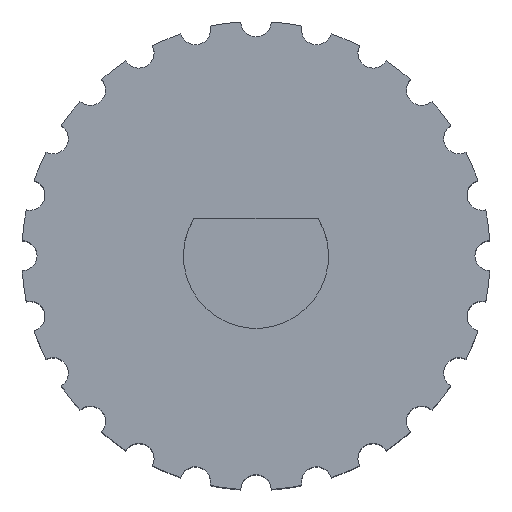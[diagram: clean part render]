
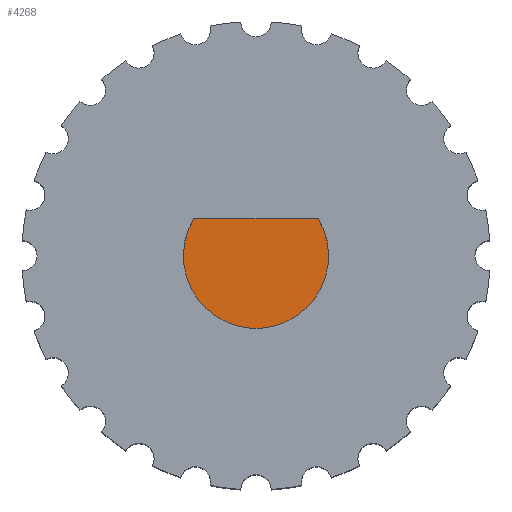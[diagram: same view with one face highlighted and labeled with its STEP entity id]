
A CAD part, top view. The second image highlights one B-rep face of the part: STEP entity #4268.
In plain terms, the highlighted planar face has unit normal (0, 0, 1).
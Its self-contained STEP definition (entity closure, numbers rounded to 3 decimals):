
#4161 = CYLINDRICAL_SURFACE('',#4162,3.1);
#4162 = AXIS2_PLACEMENT_3D('',#4163,#4164,#4165);
#4163 = CARTESIAN_POINT('',(0.,0.,3.));
#4164 = DIRECTION('',(0.,0.,1.));
#4165 = DIRECTION('',(1.,0.,-0.));
#4186 = PLANE('',#4187);
#4187 = AXIS2_PLACEMENT_3D('',#4188,#4189,#4190);
#4188 = CARTESIAN_POINT('',(-6.2,1.6,3.));
#4189 = DIRECTION('',(-0.,1.,0.));
#4190 = DIRECTION('',(0.,0.,1.));
#4200 = EDGE_CURVE('',#4201,#4203,#4205,.T.);
#4201 = VERTEX_POINT('',#4202);
#4202 = CARTESIAN_POINT('',(-2.655,1.6,3.));
#4203 = VERTEX_POINT('',#4204);
#4204 = CARTESIAN_POINT('',(2.655,1.6,3.));
#4205 = SURFACE_CURVE('',#4206,(#4210,#4217),.PCURVE_S1.);
#4206 = LINE('',#4207,#4208);
#4207 = CARTESIAN_POINT('',(-6.2,1.6,3.));
#4208 = VECTOR('',#4209,1.);
#4209 = DIRECTION('',(1.,0.,-0.));
#4210 = PCURVE('',#4186,#4211);
#4211 = DEFINITIONAL_REPRESENTATION('',(#4212),#4216);
#4212 = LINE('',#4213,#4214);
#4213 = CARTESIAN_POINT('',(0.,0.));
#4214 = VECTOR('',#4215,1.);
#4215 = DIRECTION('',(0.,1.));
#4216 = ( GEOMETRIC_REPRESENTATION_CONTEXT(2)
PARAMETRIC_REPRESENTATION_CONTEXT() REPRESENTATION_CONTEXT('2D SPACE',''
  ) );
#4217 = PCURVE('',#4218,#4223);
#4218 = PLANE('',#4219);
#4219 = AXIS2_PLACEMENT_3D('',#4220,#4221,#4222);
#4220 = CARTESIAN_POINT('',(0.,0.,3.));
#4221 = DIRECTION('',(0.,0.,1.));
#4222 = DIRECTION('',(1.,0.,-0.));
#4223 = DEFINITIONAL_REPRESENTATION('',(#4224),#4228);
#4224 = LINE('',#4225,#4226);
#4225 = CARTESIAN_POINT('',(-6.2,1.6));
#4226 = VECTOR('',#4227,1.);
#4227 = DIRECTION('',(1.,0.));
#4228 = ( GEOMETRIC_REPRESENTATION_CONTEXT(2)
PARAMETRIC_REPRESENTATION_CONTEXT() REPRESENTATION_CONTEXT('2D SPACE',''
  ) );
#4268 = ADVANCED_FACE('',(#4269),#4218,.T.);
#4269 = FACE_BOUND('',#4270,.T.);
#4270 = EDGE_LOOP('',(#4271,#4272));
#4271 = ORIENTED_EDGE('',*,*,#4200,.F.);
#4272 = ORIENTED_EDGE('',*,*,#4273,.F.);
#4273 = EDGE_CURVE('',#4203,#4201,#4274,.T.);
#4274 = SURFACE_CURVE('',#4275,(#4280,#4291),.PCURVE_S1.);
#4275 = CIRCLE('',#4276,3.1);
#4276 = AXIS2_PLACEMENT_3D('',#4277,#4278,#4279);
#4277 = CARTESIAN_POINT('',(0.,0.,3.));
#4278 = DIRECTION('',(0.,0.,-1.));
#4279 = DIRECTION('',(0.857,0.516,0.));
#4280 = PCURVE('',#4218,#4281);
#4281 = DEFINITIONAL_REPRESENTATION('',(#4282),#4290);
#4282 = ( BOUNDED_CURVE() B_SPLINE_CURVE(2,(#4283,#4284,#4285,#4286,
#4287,#4288,#4289),.UNSPECIFIED.,.T.,.F.) B_SPLINE_CURVE_WITH_KNOTS((1,2
    ,2,2,2,1),(-2.094,0.,2.094,4.189,
6.283,8.378),.UNSPECIFIED.) CURVE()
GEOMETRIC_REPRESENTATION_ITEM() RATIONAL_B_SPLINE_CURVE((1.,0.5,1.,0.5,
1.,0.5,1.)) REPRESENTATION_ITEM('') );
#4283 = CARTESIAN_POINT('',(2.655,1.6));
#4284 = CARTESIAN_POINT('',(5.426,-2.999));
#4285 = CARTESIAN_POINT('',(0.058,-3.099));
#4286 = CARTESIAN_POINT('',(-5.31,-3.2));
#4287 = CARTESIAN_POINT('',(-2.713,1.499));
#4288 = CARTESIAN_POINT('',(-0.116,6.199));
#4289 = CARTESIAN_POINT('',(2.655,1.6));
#4290 = ( GEOMETRIC_REPRESENTATION_CONTEXT(2)
PARAMETRIC_REPRESENTATION_CONTEXT() REPRESENTATION_CONTEXT('2D SPACE',''
  ) );
#4291 = PCURVE('',#4161,#4292);
#4292 = DEFINITIONAL_REPRESENTATION('',(#4293),#4297);
#4293 = LINE('',#4294,#4295);
#4294 = CARTESIAN_POINT('',(6.826,0.));
#4295 = VECTOR('',#4296,1.);
#4296 = DIRECTION('',(-1.,-0.));
#4297 = ( GEOMETRIC_REPRESENTATION_CONTEXT(2)
PARAMETRIC_REPRESENTATION_CONTEXT() REPRESENTATION_CONTEXT('2D SPACE',''
  ) );
